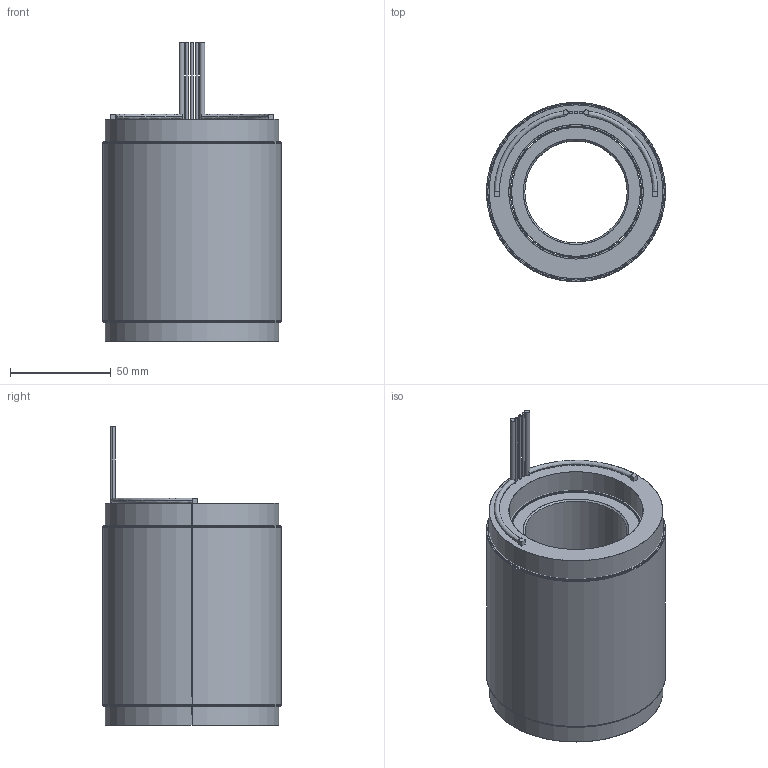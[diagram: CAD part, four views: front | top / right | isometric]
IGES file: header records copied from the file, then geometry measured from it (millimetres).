
Start section: SolidWorks IGES file using analytic representation for surfaces
Global section: file name: \\fs01.aveox.local\user documents\eng\My Documents\STANDARD STATOR ROTOR SETS\Standard rotor and stator set released\NEW DIRECT DRIVE MOTOR\3.5 OD 18S16P\6100378-06.IGS; native system: SolidWorks 2016; preprocessor: SolidWorks 2016; author: eng; date: 200623.085831; units: inch
Bounding box: 88.9 x 88.9 x 148.34 mm (x, y, z)
Surface area: 165570 mm2 (no closed solid volume)
Topology: 0 solids, 0 shells, 81 faces, 2376 edges, 2376 vertices
Faces by surface type: revolution 42, bspline 39
